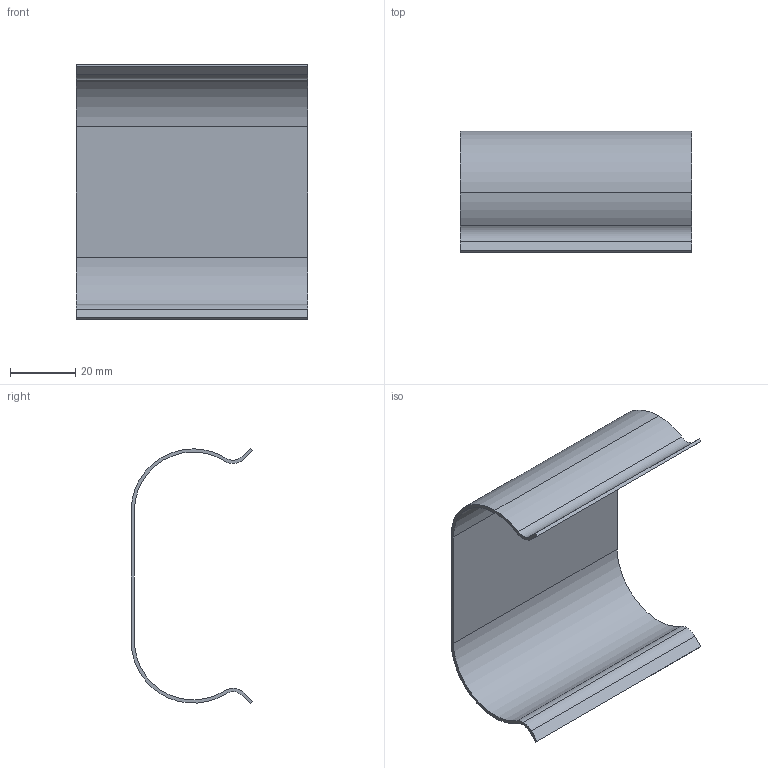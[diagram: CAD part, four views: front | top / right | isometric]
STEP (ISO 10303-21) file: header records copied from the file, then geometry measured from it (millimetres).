
FILE_DESCRIPTION (( 'STEP AP214' ), '1' );
FILE_NAME ('JB-56040W.step', '2024-01-17T00:58:50', ( 'catia' ), ( 'HP Inc.' ), 'SwSTEP 2.0', 'SolidWorks 2021', '' );
FILE_SCHEMA (( 'AUTOMOTIVE_DESIGN' ));
Length unit declared in the file: millimetre
Products named in the file (1): JB-56040W
Bounding box: 71 x 37.3 x 78.41 mm (x, y, z)
Volume: 9808.9 mm3; surface area: 20036 mm2
Topology: 1 solids, 1 shells, 22 faces, 60 edges, 40 vertices
Faces by surface type: cylinder 12, plane 10
Entity records: 742 total; most frequent: DIRECTION 130, CARTESIAN_POINT 123, ORIENTED_EDGE 120, EDGE_CURVE 60, AXIS2_PLACEMENT_3D 47, VERTEX_POINT 40, LINE 36, VECTOR 36
